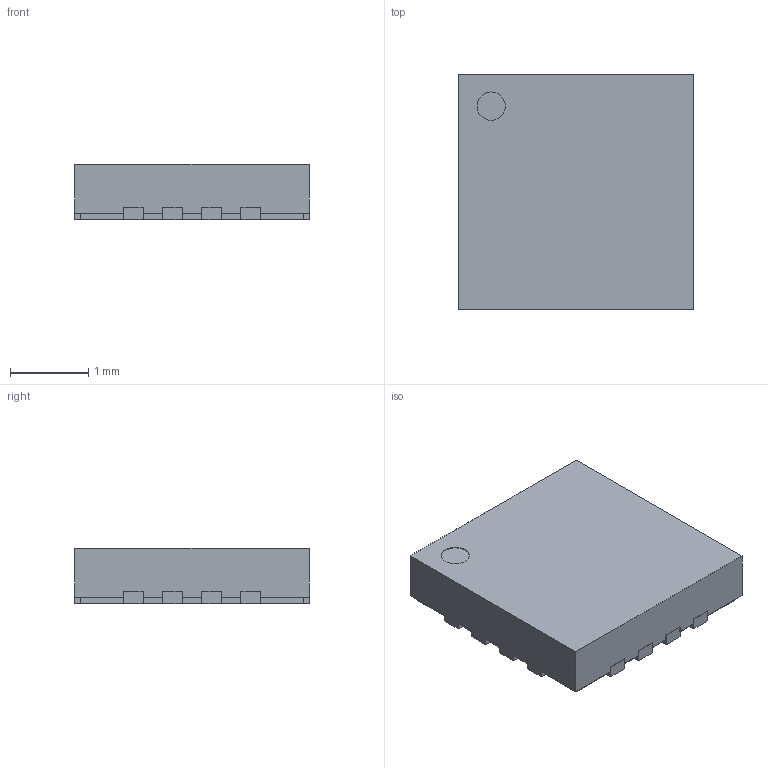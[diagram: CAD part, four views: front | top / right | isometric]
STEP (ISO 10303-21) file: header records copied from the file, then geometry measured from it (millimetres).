
FILE_DESCRIPTION(/* description */ ('Unknown'),/* implementation_level */ '2;1');
FILE_NAME(/* name */ 'A6983C50QTR',/* time_stamp */ '2025-09-09T08:58:09+02:00',/* author */ ('Unknown'),/* organization */ ('Unknown'),/* preprocessor_version */ 'ST-DEVELOPER v20',/* originating_system */ 'Solid Edge',/* authorisation */ 'Unknown');
FILE_SCHEMA (('AUTOMOTIVE_DESIGN {1 0 10303 214 3 1 1}'));
Length unit declared in the file: millimetre
Products named in the file (1): A6983C50QTR
Bounding box: 3.01 x 3.01 x 0.7 mm (x, y, z)
Volume: 6.3 mm3; surface area: 26.7 mm2
Topology: 1 solids, 1 shells, 181 faces, 531 edges, 354 vertices
Faces by surface type: plane 145, cylinder 36
Full cylindrical faces by diameter (mm): 0.361 x1
Entity records: 7243 total; most frequent: CARTESIAN_POINT 1066, ORIENTED_EDGE 1060, DIRECTION 966, EDGE_CURVE 530, LINE 458, VECTOR 458, VERTEX_POINT 354, AXIS2_PLACEMENT_3D 254
